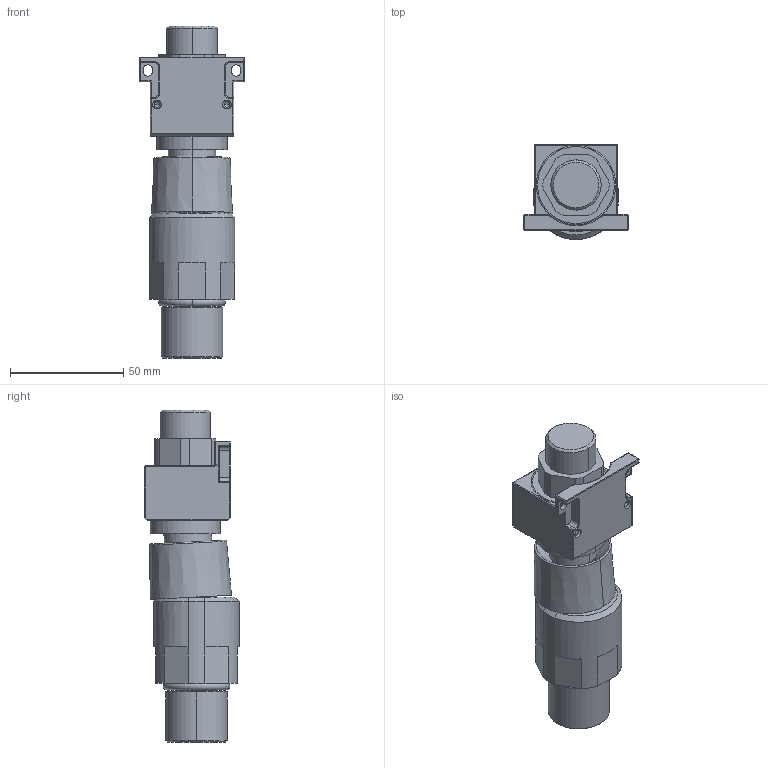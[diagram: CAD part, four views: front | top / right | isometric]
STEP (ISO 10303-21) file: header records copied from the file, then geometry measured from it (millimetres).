
FILE_DESCRIPTION((''),'2;1');
FILE_NAME('PBMC_MATED_ASSY_SPEC_ASM','2026-03-18T12:52:07',('gpcharest'),(''),'CREO PARAMETRIC BY PTC INC, 2025234','CREO PARAMETRIC BY PTC INC, 2025234','');
FILE_SCHEMA(('CONFIG_CONTROL_DESIGN'));
Length unit declared in the file: millimetre
Products named in the file (9): PBMC_SOCKET_BASE_SPEC; PBMC_SOCKET_CONE_SPEC; PBMC_SOCKET_SPEC_ASM; PBMC_PLUG_CUP_SPEC; PBMC_PLUG_BLOCK_SPEC; PBMC_PLUG_ROTATE_SPEC; PBMC_PLUG_SWIVEL_OP-E_SPEC; PBMC_PLUG_ASSY_SPEC_ASM; PBMC_MATED_ASSY_SPEC_ASM
Assembly tree (8 placements, depth 3):
  PBMC_MATED_ASSY_SPEC_ASM
    PBMC_SOCKET_SPEC_ASM
      PBMC_SOCKET_BASE_SPEC
      PBMC_SOCKET_CONE_SPEC
    PBMC_PLUG_ASSY_SPEC_ASM
      PBMC_PLUG_CUP_SPEC
      PBMC_PLUG_BLOCK_SPEC
      PBMC_PLUG_ROTATE_SPEC
      PBMC_PLUG_SWIVEL_OP-E_SPEC
Bounding box: 46 x 42 x 146.7 mm (x, y, z)
Volume: 118353.8 mm3; surface area: 45578.8 mm2
Topology: 10 solids, 11 shells, 286 faces, 625 edges, 365 vertices
Faces by surface type: cylinder 112, plane 78, cone 45, torus 35, sphere 16
Entity records: 8030 total; most frequent: DIRECTION 1544, CARTESIAN_POINT 1359, ORIENTED_EDGE 1234, AXIS2_PLACEMENT_3D 631, EDGE_CURVE 617, VERTEX_POINT 365, CIRCLE 322, EDGE_LOOP 312
